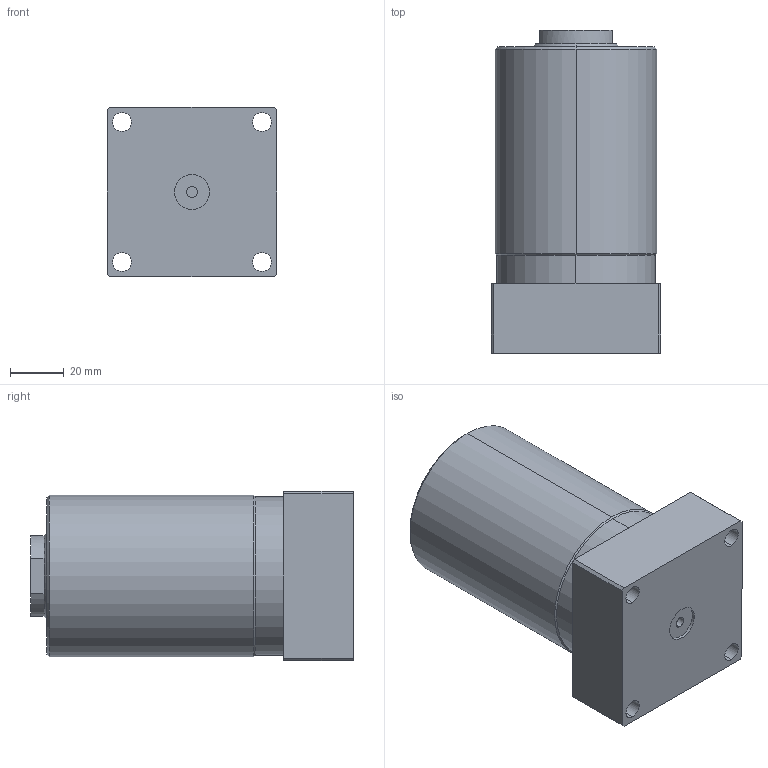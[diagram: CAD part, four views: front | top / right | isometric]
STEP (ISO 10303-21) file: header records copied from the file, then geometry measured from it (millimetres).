
FILE_DESCRIPTION (( 'STEP AP214' ), '1' );
FILE_NAME ('SP-32B.STEP', '2021-10-19T00:38:09', ( '' ), ( '' ), 'SwSTEP 2.0', 'SolidWorks 2016', '' );
FILE_SCHEMA (( 'AUTOMOTIVE_DESIGN' ));
Length unit declared in the file: millimetre
Products named in the file (1): SP-32B
Bounding box: 63 x 120 x 63 mm (x, y, z)
Volume: 348323.7 mm3; surface area: 34429.5 mm2
Topology: 1 solids, 1 shells, 51 faces, 120 edges, 73 vertices
Faces by surface type: cylinder 23, plane 18, cone 10
Entity records: 1555 total; most frequent: DIRECTION 273, CARTESIAN_POINT 241, ORIENTED_EDGE 232, EDGE_CURVE 116, AXIS2_PLACEMENT_3D 105, VERTEX_POINT 73, EDGE_LOOP 65, VECTOR 63
